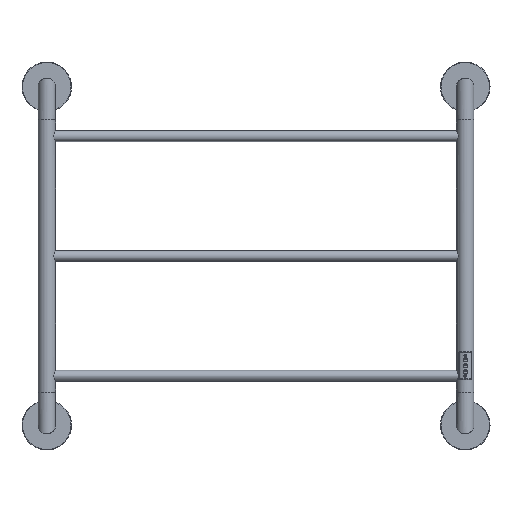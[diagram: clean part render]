
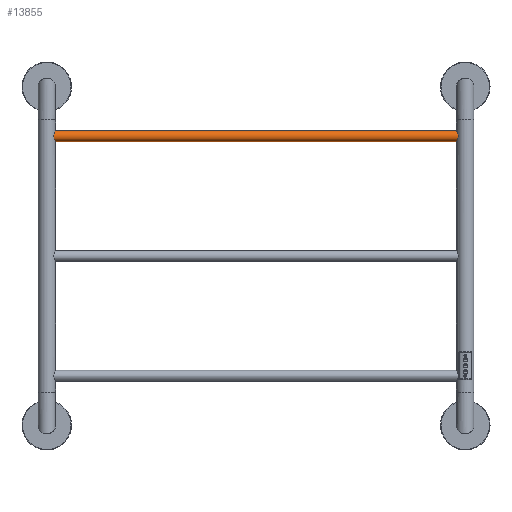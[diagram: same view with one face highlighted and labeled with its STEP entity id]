
A CAD part, front view. The second image highlights one B-rep face of the part: STEP entity #13855.
In plain terms, the highlighted cylindrical face has radius 10 mm (diameter 20 mm), a full revolution.
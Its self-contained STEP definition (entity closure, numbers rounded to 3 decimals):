
#2420=CIRCLE('',#14756,10.);
#2421=CIRCLE('',#14757,10.);
#3344=ORIENTED_EDGE('',*,*,#7092,.T.);
#3345=ORIENTED_EDGE('',*,*,#7093,.F.);
#7092=EDGE_CURVE('',#9007,#9007,#2420,.T.);
#7093=EDGE_CURVE('',#9008,#9008,#2421,.T.);
#9007=VERTEX_POINT('',#20759);
#9008=VERTEX_POINT('',#20761);
#10769=EDGE_LOOP('',(#3344));
#10770=EDGE_LOOP('',(#3345));
#11795=FACE_BOUND('',#10769,.T.);
#11796=FACE_BOUND('',#10770,.T.);
#12739=CYLINDRICAL_SURFACE('',#14755,10.);
#13855=ADVANCED_FACE('',(#11795,#11796),#12739,.T.);
#14755=AXIS2_PLACEMENT_3D('',#20757,#16367,#16368);
#14756=AXIS2_PLACEMENT_3D('',#20758,#16369,#16370);
#14757=AXIS2_PLACEMENT_3D('',#20760,#16371,#16372);
#16367=DIRECTION('',(-1.,0.,0.));
#16368=DIRECTION('',(0.,0.,1.));
#16369=DIRECTION('',(-1.,0.,0.));
#16370=DIRECTION('',(0.,1.,0.));
#16371=DIRECTION('',(-1.,0.,0.));
#16372=DIRECTION('',(0.,1.,0.));
#20757=CARTESIAN_POINT('',(374.,0.,0.));
#20758=CARTESIAN_POINT('',(374.,0.,0.));
#20759=CARTESIAN_POINT('',(374.,10.,0.));
#20760=CARTESIAN_POINT('',(-374.,0.,0.));
#20761=CARTESIAN_POINT('',(-374.,10.,0.));
